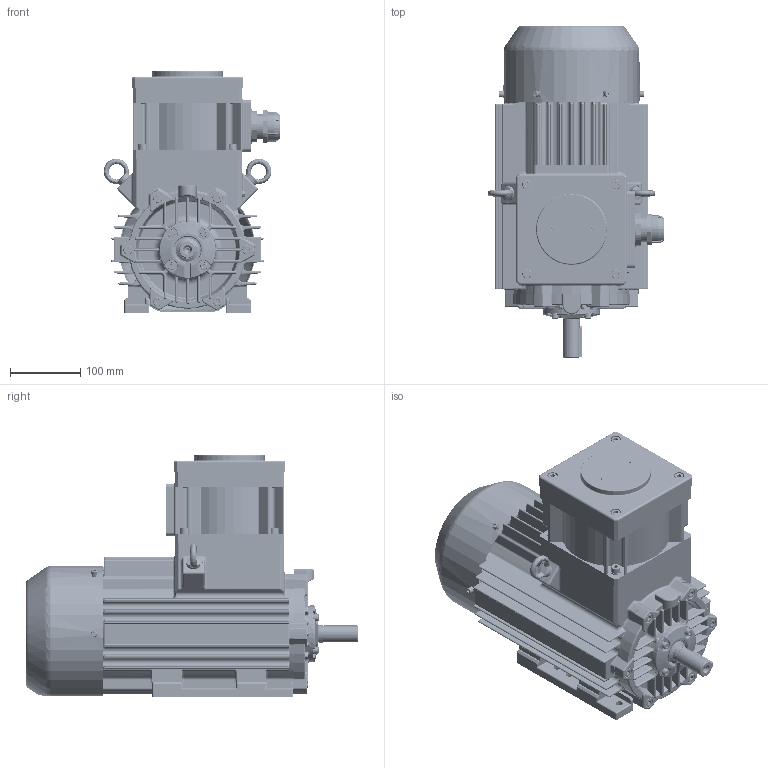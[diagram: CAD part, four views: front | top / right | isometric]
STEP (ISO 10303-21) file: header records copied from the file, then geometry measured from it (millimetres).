
FILE_DESCRIPTION(/* description */ ('Unknown'),/* implementation_level */ '2;1');
FILE_NAME(/* name */ 'Silnik cSTe90 - OUTSIDE !',/* time_stamp */ '2021-12-31T09:44:26+01:00',/* author */ ('Unknown'),/* organization */ ('Unknown'),/* preprocessor_version */ 'ST-DEVELOPER v16.7',/* originating_system */ 'DEX',/* authorisation */ $);
FILE_SCHEMA (('AUTOMOTIVE_DESIGN {1 0 10303 214 3 1 1}'));
Products named in the file (1): Silnik   cSTe90   -  OUTSIDE !
Bounding box: 251.96 x 473 x 345 mm (x, y, z)
Volume: 5554017.4 mm3; surface area: 1216052.8 mm2
Topology: 3 solids, 30 shells, 5288 faces, 14128 edges, 8784 vertices
Faces by surface type: plane 1906, cylinder 1898, torus 601, cone 417, bspline 302, sphere 164
Full cylindrical faces by diameter (mm): 2 x4, 3.2 x4, 4 x1, 4.019 x4, 4.48 x1, 4.773 x8, 4.917 x7, 5 x13, 5.3 x5, 6 x22, 6.466 x20, 6.5 x8, 6.647 x21, 6.88 x1, 8 x46, 8.376 x3, 8.4 x1, 8.5 x4, 9 x20, 10 x19, 11 x4, 13 x24, 15 x17, 22.376 x1, 23.376 x1, 23.6 x1, 23.8 x1, 24 x5, 24.8 x2, 25 x4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
Entity records: 213039 total; most frequent: CARTESIAN_POINT 49912, DIRECTION 26257, ORIENTED_EDGE 26034, EDGE_CURVE 13017, AXIS2_PLACEMENT_3D 10255, VERTEX_POINT 8463, FACE_BOUND 6424, EDGE_LOOP 6384
